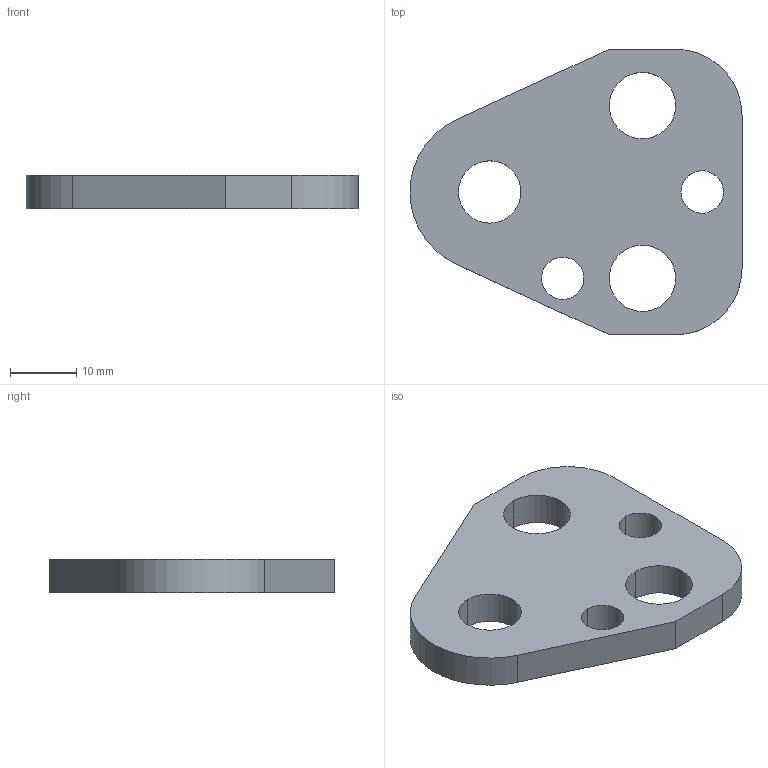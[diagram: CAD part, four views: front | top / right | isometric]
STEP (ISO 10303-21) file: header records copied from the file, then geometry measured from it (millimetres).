
FILE_DESCRIPTION(/* description */ (''),/* implementation_level */ '2;1');
FILE_NAME(/* name */ '3d_bdc13_03363_r00.stp',/* time_stamp */ '2011-01-10T14:17:24+09:00',/* author */ ('MISUMI'),/* organization */ (''),/* preprocessor_version */ 'ST-DEVELOPER v11',/* originating_system */ 'UGS - NX 5.0',/* authorisation */ '');
FILE_SCHEMA (('CONFIG_CONTROL_DESIGN'));
Length unit declared in the file: millimetre
Products named in the file (1): 3d_bdc13_03363_r00
Bounding box: 50 x 43 x 5 mm (x, y, z)
Volume: 6907.1 mm3; surface area: 4187.9 mm2
Topology: 1 solids, 1 shells, 20 faces, 54 edges, 36 vertices
Faces by surface type: cylinder 13, plane 7
Entity records: 750 total; most frequent: DIRECTION 122, CARTESIAN_POINT 111, ORIENTED_EDGE 108, EDGE_CURVE 54, AXIS2_PLACEMENT_3D 47, VERTEX_POINT 36, EDGE_LOOP 30, LINE 28
